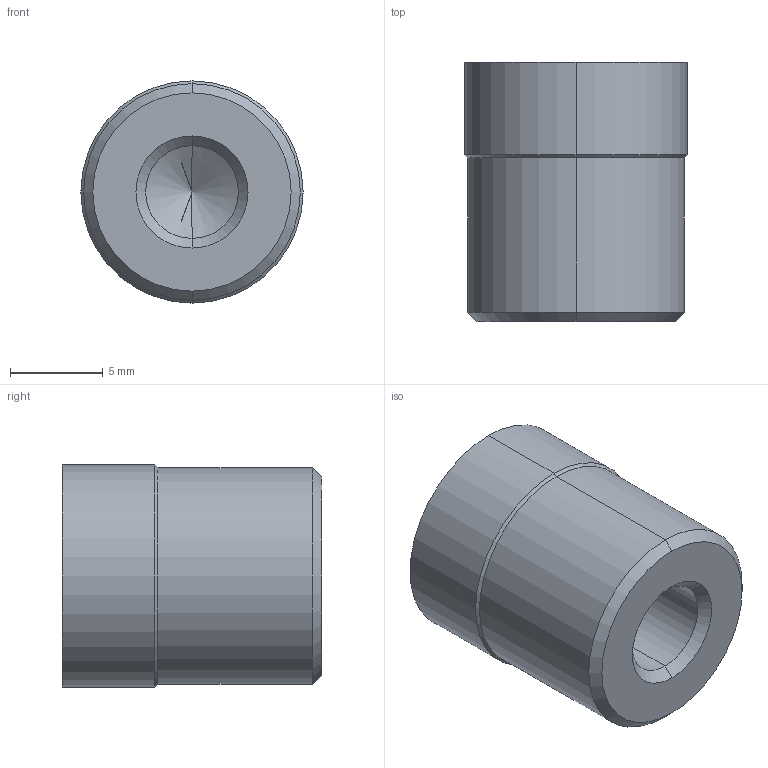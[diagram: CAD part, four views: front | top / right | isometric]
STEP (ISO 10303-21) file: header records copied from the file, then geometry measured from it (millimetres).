
FILE_DESCRIPTION (( 'STEP AP203' ), '1' );
FILE_NAME ('DAP-12N.STEP', '2016-01-11T15:25:28', ( 'Balzi' ), ( '' ), 'SwSTEP 2.0', 'SolidWorks 2015', '' );
FILE_SCHEMA (( 'CONFIG_CONTROL_DESIGN' ));
Length unit declared in the file: millimetre
Products named in the file (1): DAP-12N
Bounding box: 12 x 14 x 12 mm (x, y, z)
Volume: 1302.3 mm3; surface area: 924.4 mm2
Topology: 1 solids, 1 shells, 96 faces, 266 edges, 173 vertices
Faces by surface type: cylinder 48, plane 40, cone 8
Entity records: 3153 total; most frequent: DIRECTION 558, CARTESIAN_POINT 534, ORIENTED_EDGE 528, EDGE_CURVE 264, AXIS2_PLACEMENT_3D 197, VERTEX_POINT 173, LINE 164, VECTOR 164
